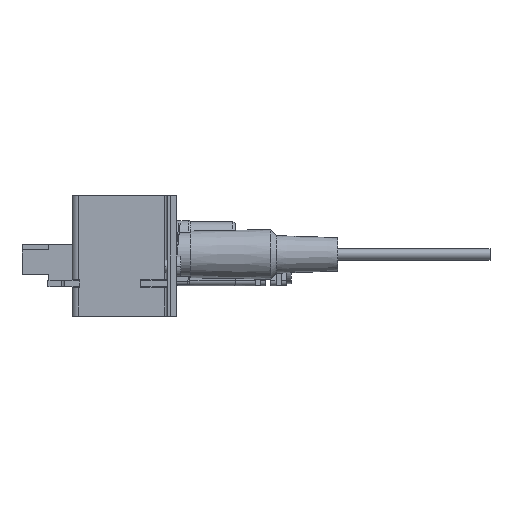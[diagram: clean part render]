
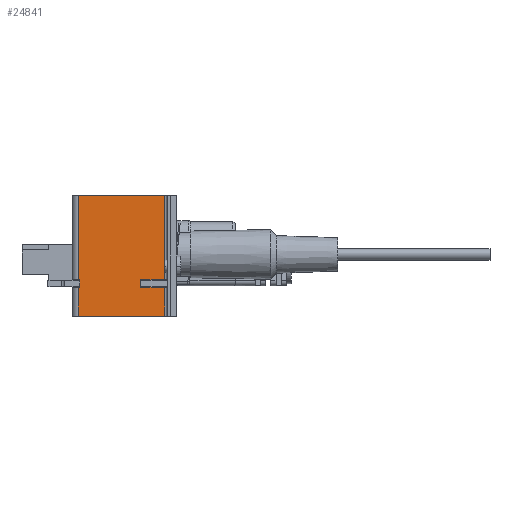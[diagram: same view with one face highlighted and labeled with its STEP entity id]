
A CAD part, front view. The second image highlights one B-rep face of the part: STEP entity #24841.
In plain terms, the highlighted planar face has unit normal (0, -1, 0).
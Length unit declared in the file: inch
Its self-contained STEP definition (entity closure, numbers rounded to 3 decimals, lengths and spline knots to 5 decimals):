
#3784=DIRECTION('',(1.,0.,0.));
#3785=VECTOR('',#3784,0.0001);
#3786=CARTESIAN_POINT('',(-0.2651,-3.47055,0.2915));
#3787=LINE('',#3786,#3785);
#3788=DIRECTION('',(0.,0.,-1.));
#3789=VECTOR('',#3788,0.0065);
#3790=CARTESIAN_POINT('',(-0.265,-3.47055,0.2915));
#3791=LINE('',#3790,#3789);
#3792=DIRECTION('',(-1.,0.,0.));
#3793=VECTOR('',#3792,0.235);
#3794=CARTESIAN_POINT('',(-0.03,-3.47055,0.285));
#3795=LINE('',#3794,#3793);
#3796=DIRECTION('',(0.,0.,1.));
#3797=VECTOR('',#3796,0.285);
#3798=CARTESIAN_POINT('',(-0.8801,-3.47055,0.));
#3799=LINE('',#3798,#3797);
#3800=DIRECTION('',(1.,0.,0.));
#3801=VECTOR('',#3800,0.015);
#3802=CARTESIAN_POINT('',(-0.8801,-3.47055,0.285));
#3803=LINE('',#3802,#3801);
#3804=DIRECTION('',(0.,0.,1.));
#3805=VECTOR('',#3804,0.075);
#3806=CARTESIAN_POINT('',(-0.8651,-3.47055,0.285));
#3807=LINE('',#3806,#3805);
#3808=DIRECTION('',(1.,0.,0.));
#3809=VECTOR('',#3808,0.015);
#3810=CARTESIAN_POINT('',(-0.8801,-3.47055,0.36));
#3811=LINE('',#3810,#3809);
#3812=DIRECTION('',(0.,0.,1.));
#3813=VECTOR('',#3812,0.828);
#3814=CARTESIAN_POINT('',(-0.8801,-3.47055,0.36));
#3815=LINE('',#3814,#3813);
#3816=DIRECTION('',(-1.,0.,0.));
#3817=VECTOR('',#3816,0.235);
#3818=CARTESIAN_POINT('',(-0.03,-3.47055,0.36));
#3819=LINE('',#3818,#3817);
#3820=DIRECTION('',(0.,0.,-1.));
#3821=VECTOR('',#3820,0.0065);
#3822=CARTESIAN_POINT('',(-0.265,-3.47055,0.36));
#3823=LINE('',#3822,#3821);
#3824=DIRECTION('',(1.,0.,0.));
#3825=VECTOR('',#3824,0.0001);
#3826=CARTESIAN_POINT('',(-0.2651,-3.47055,0.3535));
#3827=LINE('',#3826,#3825);
#3828=DIRECTION('',(0.,0.,1.));
#3829=VECTOR('',#3828,0.062);
#3830=CARTESIAN_POINT('',(-0.2651,-3.47055,0.2915));
#3831=LINE('',#3830,#3829);
#6501=DIRECTION('',(0.,0.,1.));
#6502=VECTOR('',#6501,0.828);
#6503=CARTESIAN_POINT('',(-0.03,-3.47055,0.36));
#6504=LINE('',#6503,#6502);
#6555=DIRECTION('',(0.,0.,1.));
#6556=VECTOR('',#6555,0.285);
#6557=CARTESIAN_POINT('',(-0.03,-3.47055,0.));
#6558=LINE('',#6557,#6556);
#6607=DIRECTION('',(1.,0.,0.));
#6608=VECTOR('',#6607,0.8501);
#6609=CARTESIAN_POINT('',(-0.8801,-3.47055,0.));
#6610=LINE('',#6609,#6608);
#6719=DIRECTION('',(1.,0.,0.));
#6720=VECTOR('',#6719,0.8501);
#6721=CARTESIAN_POINT('',(-0.8801,-3.47055,1.188));
#6722=LINE('',#6721,#6720);
#16363=CARTESIAN_POINT('',(-0.8801,-3.47055,0.));
#16364=CARTESIAN_POINT('',(-0.03,-3.47055,0.));
#16365=VERTEX_POINT('',#16363);
#16366=VERTEX_POINT('',#16364);
#16383=CARTESIAN_POINT('',(-0.8801,-3.47055,1.188));
#16384=CARTESIAN_POINT('',(-0.03,-3.47055,1.188));
#16385=VERTEX_POINT('',#16383);
#16386=VERTEX_POINT('',#16384);
#16443=CARTESIAN_POINT('',(-0.8651,-3.47055,0.285));
#16444=CARTESIAN_POINT('',(-0.8651,-3.47055,0.36));
#16445=VERTEX_POINT('',#16443);
#16446=VERTEX_POINT('',#16444);
#16447=CARTESIAN_POINT('',(-0.8801,-3.47055,0.285));
#16448=VERTEX_POINT('',#16447);
#16449=CARTESIAN_POINT('',(-0.8801,-3.47055,0.36));
#16450=VERTEX_POINT('',#16449);
#16547=CARTESIAN_POINT('',(-0.03,-3.47055,0.36));
#16548=CARTESIAN_POINT('',(-0.265,-3.47055,0.36));
#16549=VERTEX_POINT('',#16547);
#16550=VERTEX_POINT('',#16548);
#16551=CARTESIAN_POINT('',(-0.03,-3.47055,0.285));
#16552=CARTESIAN_POINT('',(-0.265,-3.47055,0.285));
#16553=VERTEX_POINT('',#16551);
#16554=VERTEX_POINT('',#16552);
#16783=CARTESIAN_POINT('',(-0.2651,-3.47055,0.2915));
#16784=CARTESIAN_POINT('',(-0.265,-3.47055,0.2915));
#16785=VERTEX_POINT('',#16783);
#16786=VERTEX_POINT('',#16784);
#16787=CARTESIAN_POINT('',(-0.2651,-3.47055,0.3535));
#16788=CARTESIAN_POINT('',(-0.265,-3.47055,0.3535));
#16789=VERTEX_POINT('',#16787);
#16790=VERTEX_POINT('',#16788);
#24806=CARTESIAN_POINT('',(-0.8801,-3.47055,0.));
#24807=DIRECTION('',(0.,-1.,0.));
#24808=DIRECTION('',(1.,0.,0.));
#24809=AXIS2_PLACEMENT_3D('',#24806,#24807,#24808);
#24810=PLANE('',#24809);
#24811=ORIENTED_EDGE('',*,*,#24423,.T.);
#24813=ORIENTED_EDGE('',*,*,#24812,.T.);
#24815=ORIENTED_EDGE('',*,*,#24814,.F.);
#24817=ORIENTED_EDGE('',*,*,#24816,.F.);
#24819=ORIENTED_EDGE('',*,*,#24818,.F.);
#24820=ORIENTED_EDGE('',*,*,#21630,.T.);
#24821=ORIENTED_EDGE('',*,*,#21653,.T.);
#24823=ORIENTED_EDGE('',*,*,#24822,.T.);
#24825=ORIENTED_EDGE('',*,*,#24824,.F.);
#24827=ORIENTED_EDGE('',*,*,#24826,.T.);
#24829=ORIENTED_EDGE('',*,*,#24828,.T.);
#24831=ORIENTED_EDGE('',*,*,#24830,.F.);
#24833=ORIENTED_EDGE('',*,*,#24832,.T.);
#24835=ORIENTED_EDGE('',*,*,#24834,.T.);
#24836=ORIENTED_EDGE('',*,*,#21735,.F.);
#24838=ORIENTED_EDGE('',*,*,#24837,.F.);
#24839=EDGE_LOOP('',(#24811,#24813,#24815,#24817,#24819,#24820,#24821,#24823,
#24825,#24827,#24829,#24831,#24833,#24835,#24836,#24838));
#24840=FACE_OUTER_BOUND('',#24839,.F.);
#24841=ADVANCED_FACE('',(#24840),#24810,.T.);
#21630=EDGE_CURVE('',#16365,#16448,#3799,.T.);
#21653=EDGE_CURVE('',#16448,#16445,#3803,.T.);
#21735=EDGE_CURVE('',#16789,#16790,#3827,.T.);
#24423=EDGE_CURVE('',#16785,#16786,#3787,.T.);
#24812=EDGE_CURVE('',#16786,#16554,#3791,.T.);
#24814=EDGE_CURVE('',#16553,#16554,#3795,.T.);
#24816=EDGE_CURVE('',#16366,#16553,#6558,.T.);
#24818=EDGE_CURVE('',#16365,#16366,#6610,.T.);
#24822=EDGE_CURVE('',#16445,#16446,#3807,.T.);
#24824=EDGE_CURVE('',#16450,#16446,#3811,.T.);
#24826=EDGE_CURVE('',#16450,#16385,#3815,.T.);
#24828=EDGE_CURVE('',#16385,#16386,#6722,.T.);
#24830=EDGE_CURVE('',#16549,#16386,#6504,.T.);
#24832=EDGE_CURVE('',#16549,#16550,#3819,.T.);
#24834=EDGE_CURVE('',#16550,#16790,#3823,.T.);
#24837=EDGE_CURVE('',#16785,#16789,#3831,.T.);
